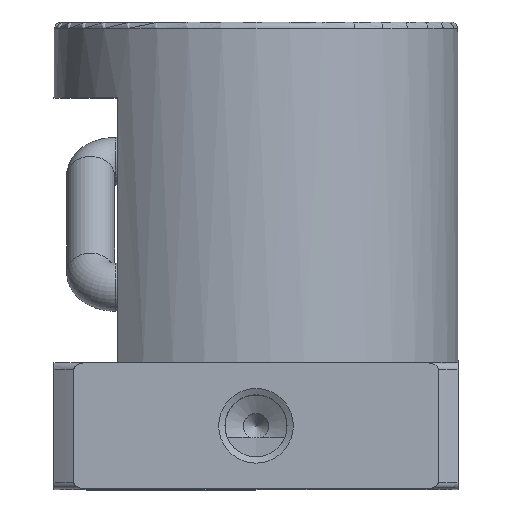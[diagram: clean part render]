
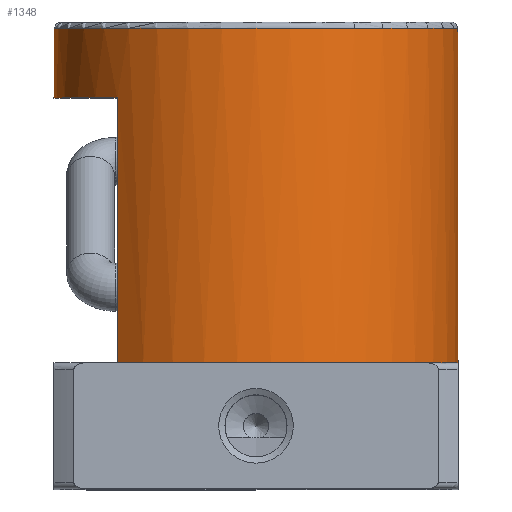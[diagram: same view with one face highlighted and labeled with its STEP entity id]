
A CAD part, top view. The second image highlights one B-rep face of the part: STEP entity #1348.
In plain terms, the highlighted cylindrical face has radius 16 mm (diameter 32 mm), a full revolution.
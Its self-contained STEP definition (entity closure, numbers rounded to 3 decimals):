
#76=CYLINDRICAL_SURFACE('',#1419,16.);
#109=CIRCLE('',#1420,16.);
#110=CIRCLE('',#1421,16.);
#111=CIRCLE('',#1422,16.);
#112=CIRCLE('',#1423,16.);
#176=ORIENTED_EDGE('',*,*,#420,.T.);
#177=ORIENTED_EDGE('',*,*,#421,.F.);
#178=ORIENTED_EDGE('',*,*,#415,.T.);
#179=ORIENTED_EDGE('',*,*,#422,.T.);
#180=ORIENTED_EDGE('',*,*,#423,.T.);
#181=ORIENTED_EDGE('',*,*,#413,.T.);
#413=EDGE_CURVE('',#536,#534,#631,.F.);
#415=EDGE_CURVE('',#535,#537,#633,.T.);
#420=EDGE_CURVE('',#542,#542,#109,.F.);
#421=EDGE_CURVE('',#535,#534,#110,.T.);
#422=EDGE_CURVE('',#537,#543,#111,.F.);
#423=EDGE_CURVE('',#543,#536,#112,.F.);
#534=VERTEX_POINT('',#1855);
#535=VERTEX_POINT('',#1856);
#536=VERTEX_POINT('',#1858);
#537=VERTEX_POINT('',#1860);
#542=VERTEX_POINT('',#1872);
#543=VERTEX_POINT('',#1875);
#631=LINE('',#1857,#656);
#633=LINE('',#1861,#658);
#656=VECTOR('',#1556,1000.);
#658=VECTOR('',#1558,1000.);
#685=EDGE_LOOP('',(#176));
#686=EDGE_LOOP('',(#177,#178,#179,#180,#181));
#791=FACE_BOUND('',#685,.T.);
#792=FACE_BOUND('',#686,.T.);
#1348=ADVANCED_FACE('',(#791,#792),#76,.T.);
#1419=AXIS2_PLACEMENT_3D('',#1870,#1567,#1568);
#1420=AXIS2_PLACEMENT_3D('',#1871,#1569,#1570);
#1421=AXIS2_PLACEMENT_3D('',#1873,#1571,#1572);
#1422=AXIS2_PLACEMENT_3D('',#1874,#1573,#1574);
#1423=AXIS2_PLACEMENT_3D('',#1876,#1575,#1576);
#1556=DIRECTION('',(0.,-1.,0.));
#1558=DIRECTION('',(0.,-1.,0.));
#1567=DIRECTION('',(0.,-1.,0.));
#1568=DIRECTION('',(0.,0.,-1.));
#1569=DIRECTION('',(0.,1.,0.));
#1570=DIRECTION('',(0.,0.,1.));
#1571=DIRECTION('',(0.,-1.,0.));
#1572=DIRECTION('',(0.,0.,-1.));
#1573=DIRECTION('',(0.,-1.,0.));
#1574=DIRECTION('',(0.,0.,-1.));
#1575=DIRECTION('',(0.,-1.,0.));
#1576=DIRECTION('',(0.,0.,-1.));
#1855=CARTESIAN_POINT('',(-11.,31.,-11.619));
#1856=CARTESIAN_POINT('',(-11.,31.,11.619));
#1857=CARTESIAN_POINT('',(-11.,37.,-11.619));
#1858=CARTESIAN_POINT('',(-11.,10.,-11.619));
#1860=CARTESIAN_POINT('',(-11.,10.,11.619));
#1861=CARTESIAN_POINT('',(-11.,37.,11.619));
#1870=CARTESIAN_POINT('',(0.,37.,0.));
#1871=CARTESIAN_POINT('',(0.,36.5,0.));
#1872=CARTESIAN_POINT('',(0.,36.5,16.));
#1873=CARTESIAN_POINT('',(0.,31.,0.));
#1874=CARTESIAN_POINT('',(0.,10.,0.));
#1875=CARTESIAN_POINT('',(16.,10.,0.));
#1876=CARTESIAN_POINT('',(0.,10.,0.));
